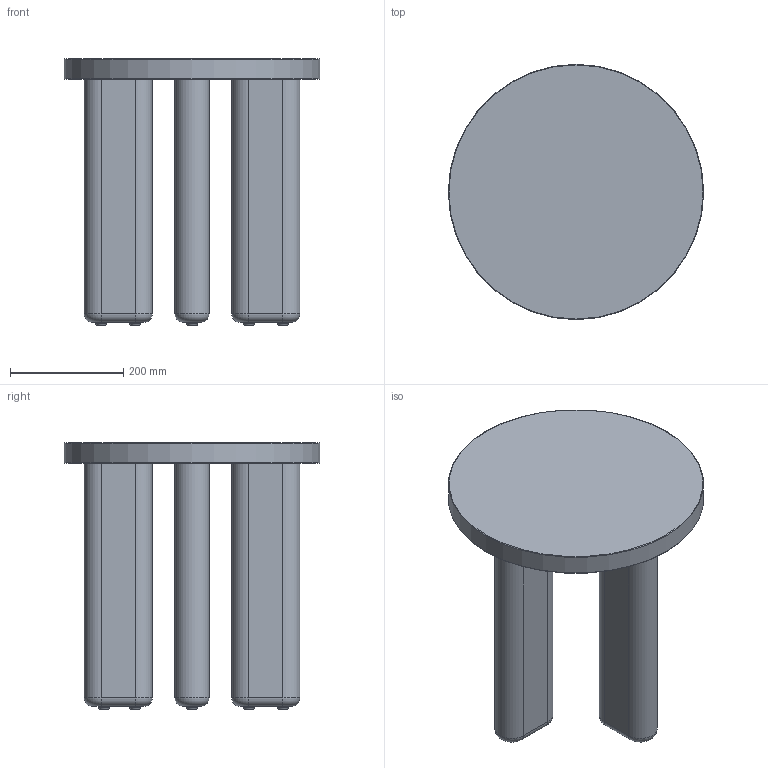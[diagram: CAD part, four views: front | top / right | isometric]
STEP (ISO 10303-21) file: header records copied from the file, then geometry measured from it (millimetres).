
FILE_DESCRIPTION(/* description */ ('Unknown'),/* implementation_level */ '2;1');
FILE_NAME(/* name */ 'MIN001-450_DIA-r-D',/* time_stamp */ '2024-07-15T07:44:13+10:00',/* author */ ('Unknown'),/* organization */ ('Unknown'),/* preprocessor_version */ 'ST-DEVELOPER v16.7',/* originating_system */ 'Solid Edge',/* authorisation */ 'Unknown');
FILE_SCHEMA (('AUTOMOTIVE_DESIGN {1 0 10303 214 3 1 1}'));
Length unit declared in the file: millimetre
Products named in the file (7): MIN001-450_DIA-r-D; PLASTIC_NAIL_GLIDE_MIN; MIN109-LEG_BRKT-r-C; M6X20_CSK_HEX; CSK TORX WOOD SCREW M8X80 ; MIN101-450_DIA_TOP-r-B; MIN102-LEG_120Lx429H-r-C
Assembly tree (33 placements, depth 2):
  MIN001-450_DIA-r-D
    PLASTIC_NAIL_GLIDE_MIN  x8
    MIN109-LEG_BRKT-r-C  x4
    M6X20_CSK_HEX  x8
    CSK TORX WOOD SCREW M8X80   x8
    MIN101-450_DIA_TOP-r-B
    MIN102-LEG_120Lx429H-r-C  x4
Bounding box: 450 x 450 x 470 mm (x, y, z)
Volume: 16693558.9 mm3; surface area: 1027954.9 mm2
Topology: 33 solids, 33 shells, 801 faces, 1807 edges, 1108 vertices
Faces by surface type: plane 422, cylinder 217, cone 104, torus 50, sphere 8
Full cylindrical faces by diameter (mm): 1 x8, 3.5 x8, 4 x8, 6 x16, 7 x8, 8 x8, 10 x8, 11.7 x8, 15 x8, 19 x8, 450 x1
Entity records: 4308 total; most frequent: DIRECTION 762, CARTESIAN_POINT 690, ORIENTED_EDGE 552, AXIS2_PLACEMENT_3D 314, EDGE_CURVE 276, EDGE_LOOP 214, FACE_BOUND 214, VERTEX_POINT 194
